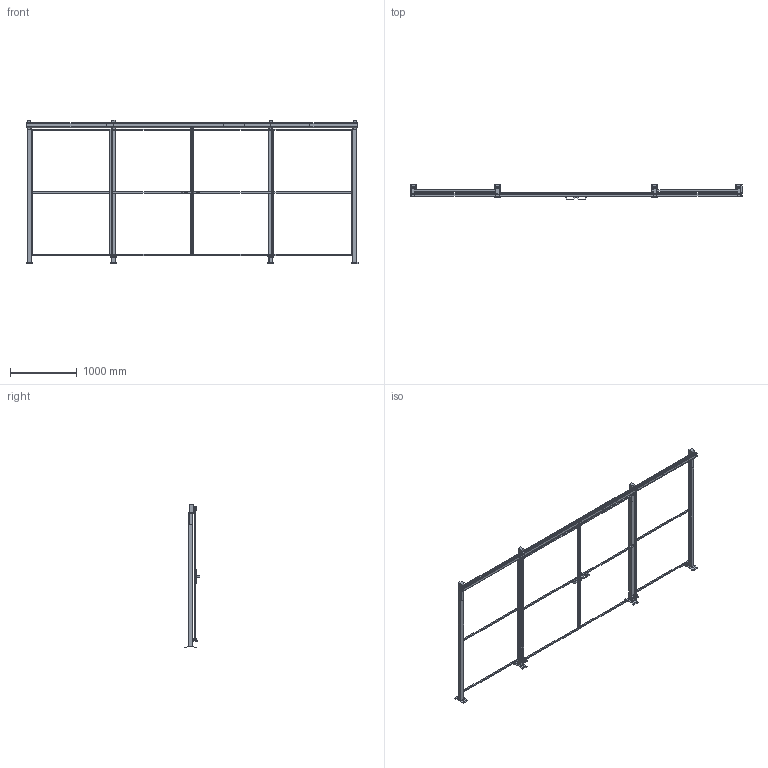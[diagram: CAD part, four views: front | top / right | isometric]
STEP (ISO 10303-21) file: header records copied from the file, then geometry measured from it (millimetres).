
FILE_DESCRIPTION(/* description */ (''),/* implementation_level */ '2;1');
FILE_NAME(/* name */ 'C:\SafeGuarding\ELABORATI\HOR§VED_2025-03-27-09-13-12.stp',/* time_stamp */ '2025-03-27T09:13:14+01:00',/* author */ ('admin'),/* organization */ (''),/* preprocessor_version */ 'ST-DEVELOPER v18.1',/* originating_system */ 'AutoCAD Mechanical',/* authorisation */ '');
FILE_SCHEMA (('AUTOMOTIVE_DESIGN { 1 0 10303 214 3 1 1 }'));
Length unit declared in the file: millimetre
Products named in the file (3): Product; R_VFPA.REPE20.12001900; P_VFMA.V360SDU.2020
Assembly tree (8 placements, depth 2):
  Product
    R_VFPA.REPE20.12001900  x4
    P_VFMA.V360SDU.2020  x4
Bounding box: 4980 x 235.9 x 2154 mm (x, y, z)
Volume: 52687415.7 mm3; surface area: 7574997.2 mm2
Topology: 56 solids, 78 shells, 626 faces, 2120 edges, 2204 vertices
Faces by surface type: plane 574, cylinder 52
Full cylindrical faces by diameter (mm): 11 x16, 12 x4, 14 x4, 15 x8, 40 x8
Entity records: 15689 total; most frequent: CARTESIAN_POINT 3336, ORIENTED_EDGE 2340, DIRECTION 2327, EDGE_CURVE 1268, LINE 1109, VECTOR 1109, VERTEX_POINT 928, AXIS2_PLACEMENT_3D 609
